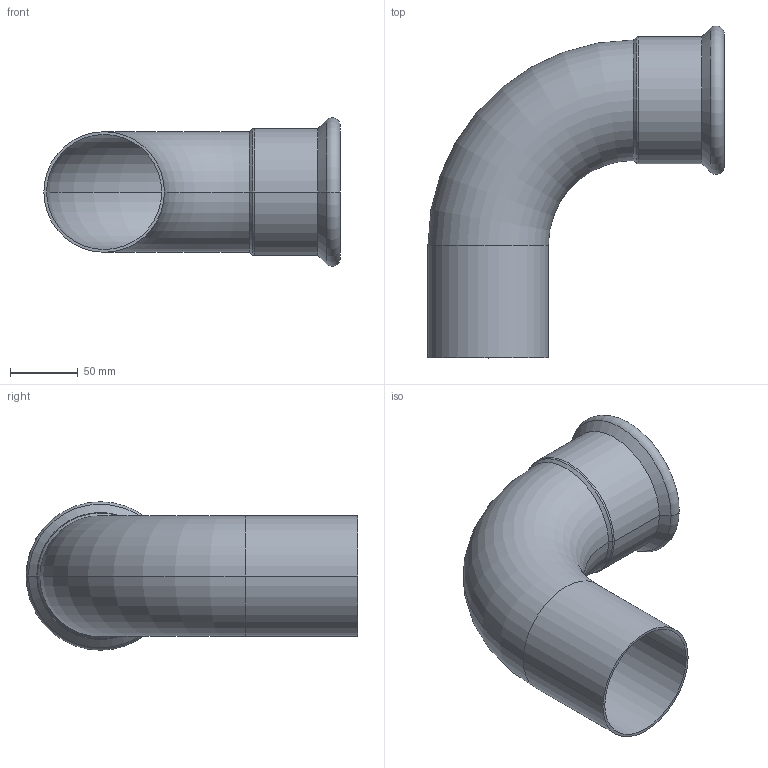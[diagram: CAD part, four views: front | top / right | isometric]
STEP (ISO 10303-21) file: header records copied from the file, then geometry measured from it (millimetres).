
FILE_DESCRIPTION(('OneSpaceDesigner STEP Export'),'2;1');
FILE_NAME('R2711 89x89.stp','2010-06-09T15:14:51',(''),(''),'OneSpace Designer STEP processor for AP214 (Solid Model)','OneSpace Modeling 15.00A 14-Mar-2007 (C) CoCreate Software GmbH','');
FILE_SCHEMA(('AUTOMOTIVE_DESIGN { 1 0 10303 214 1 1 1 1 }'));
Length unit declared in the file: millimetre
Products named in the file (2): R2711_89x89
Assembly tree (1 placements, depth 2):
  R2711_89x89
    R2711_89x89
Bounding box: 218.45 x 244.74 x 109.48 mm (x, y, z)
Volume: 210855.7 mm3; surface area: 186373.7 mm2
Topology: 1 solids, 1 shells, 64 faces, 161 edges, 101 vertices
Faces by surface type: plane 31, cylinder 21, torus 8, cone 4
Entity records: 1689 total; most frequent: ORIENTED_EDGE 322, CARTESIAN_POINT 269, DIRECTION 245, EDGE_CURVE 161, VERTEX_POINT 101, VECTOR 91, LINE 91, AXIS2_PLACEMENT_3D 77
